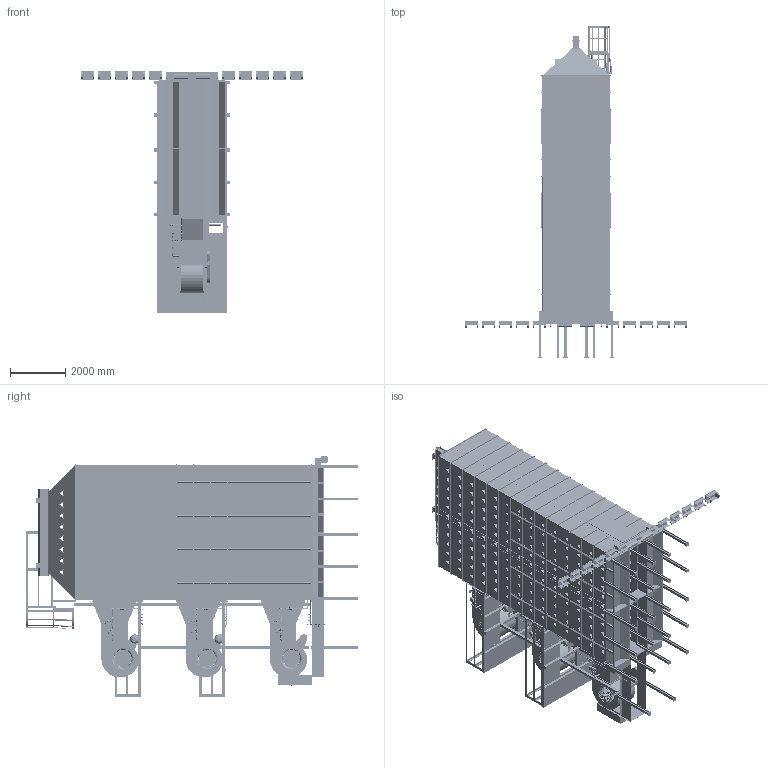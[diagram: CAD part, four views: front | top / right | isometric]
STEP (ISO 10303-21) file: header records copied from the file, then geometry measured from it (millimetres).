
FILE_DESCRIPTION(/* description */ ('PLAN AND ELEVATION VIEW FOR D16160 WITH ROOF & LEVEL AUGER'),/* implementation_level */ '2;1');
FILE_NAME(/* name */ 'C:\Engineering\Designs\Sales\Dryer\Workspaces\D16 All\D16160LA.stp',/* time_stamp */ '2025-01-06T16:52:24-06:00',/* author */ ('max.fleming'),/* organization */ (''),/* preprocessor_version */ 'ST-DEVELOPER v18.1',/* originating_system */ 'Autodesk Inventor 2022',/* authorisation */ '');
FILE_SCHEMA (('AUTOMOTIVE_DESIGN { 1 0 10303 214 3 1 1 }'));
Products named in the file (30): D16160LA; 16FT FRAME; 8FT LHRH FRAME; 16FT CATWALK; 16FT ROOF GF; 8FTRoof GF LHRH; Tongue; 16FT BODY TIER; LH Body; RH Body; LH Body_MIR6; RH Body_MIR6; Outside Splice; Standard Size End Plenum Panels; Ladder 2' section; Stiffeners; Platform Support 1-T; 1 Tier Vertical Support; Level Auger 16'; Level Auger; 8'' Intake; LP Fuel; Platform; Trans & Blower; Belt Shield; Screen Guard; 8'' CROSS AUGER; Leg Kit-02; LP Inlet; Liquid Propane Pipe
Assembly tree (186 placements, depth 3):
  D16160LA
    16FT FRAME
      8FT LHRH FRAME  x2
    16FT CATWALK
    16FT ROOF GF
      8FTRoof GF LHRH  x2
    Tongue
    16FT BODY TIER  x14
      LH Body
      RH Body
      LH Body_MIR6
      RH Body_MIR6
      Outside Splice
    Leg Kit-02  x20
    Standard Size End Plenum Panels  x25
    Trans & Blower  x3
    Belt Shield  x3
    Screen Guard  x6
    LP Fuel  x3
    Stiffeners  x64
    Platform  x2
    Platform Support 1-T
    1 Tier Vertical Support  x18
    LP Inlet
    Liquid Propane Pipe  x10
  Ladder 2' section
  Level Auger 16'
    Level Auger  x2
  8'' Intake
  8'' CROSS AUGER
Bounding box: 8007.35 x 11997.14 x 8743.95 mm (x, y, z)
Volume: 74848088980.6 mm3; surface area: 1069848825.4 mm2
Topology: 691 solids, 927 shells, 54098 faces, 139839 edges, 89195 vertices
Faces by surface type: plane 24765, cylinder 16044, bspline 5614, cone 5020, torus 2384, sphere 271
Full cylindrical faces by diameter (mm): 1 x15, 1.651 x9, 1.753 x9, 1.778 x18, 2.019 x6, 2.108 x3, 2.286 x36, 2.489 x3, 2.54 x6, 3.091 x432, 3.175 x7, 3.251 x30, 3.306 x432, 3.522 x3, 3.658 x42, 3.8 x24, 4 x576, 4.039 x30, 4.166 x384, 4.191 x6, 4.229 x3, 4.267 x3, 4.369 x12, 4.445 x12, 4.701 x888, 4.762 x24, 4.851 x12, 4.928 x48, 5.283 x3, 5.527 x30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
Entity records: 737398 total; most frequent: CARTESIAN_POINT 335564, ORIENTED_EDGE 84072, DIRECTION 75230, EDGE_CURVE 42176, VERTEX_POINT 26912, AXIS2_PLACEMENT_3D 26261, LINE 22708, VECTOR 22708
